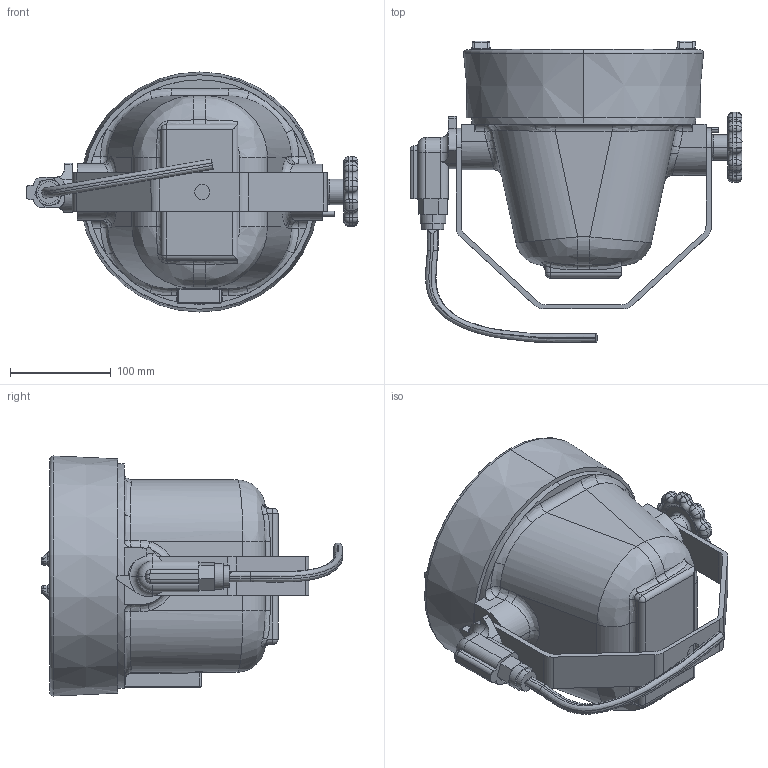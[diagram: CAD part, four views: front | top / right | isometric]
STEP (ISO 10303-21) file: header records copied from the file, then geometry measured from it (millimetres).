
FILE_DESCRIPTION (( 'STEP AP203' ), '1' );
FILE_NAME ('EPL-TN-70.STEP', '2016-11-21T20:50:19', ( '' ), ( '' ), 'SwSTEP 2.0', 'SolidWorks 2016', '' );
FILE_SCHEMA (( 'CONFIG_CONTROL_DESIGN' ));
Length unit declared in the file: inch
Products named in the file (1): EPL-TN-70
Bounding box: 328.9 x 298.95 x 237.78 mm (x, y, z)
Volume: 1250101.2 mm3; surface area: 526076.3 mm2
Topology: 7 solids, 7 shells, 639 faces, 1542 edges, 866 vertices
Faces by surface type: cylinder 226, plane 168, bspline 106, torus 75, sphere 60, cone 4
Entity records: 24141 total; most frequent: CARTESIAN_POINT 10239, ORIENTED_EDGE 2956, DIRECTION 2939, EDGE_CURVE 1478, AXIS2_PLACEMENT_3D 1219, VERTEX_POINT 866, CIRCLE 685, EDGE_LOOP 664
